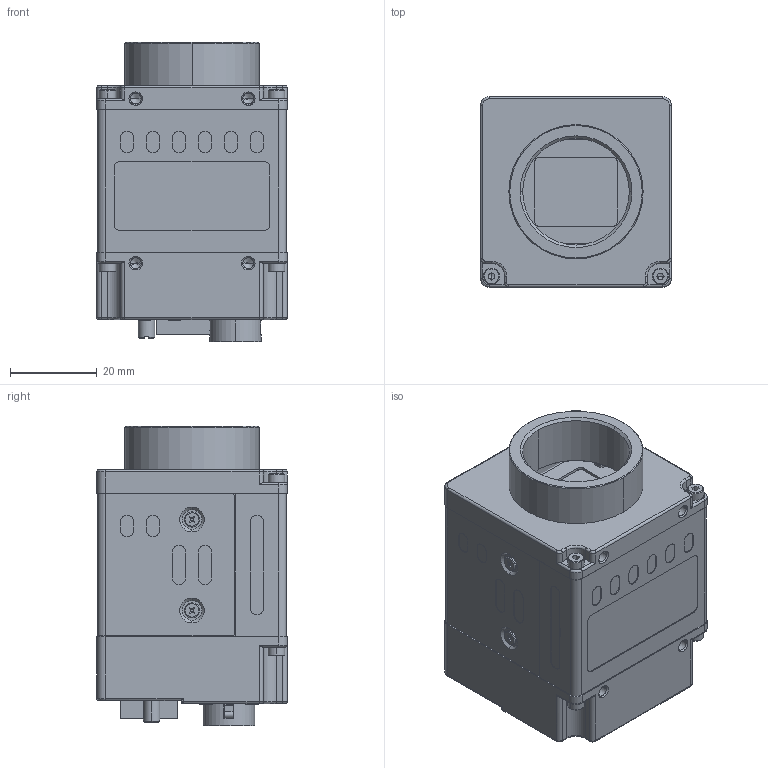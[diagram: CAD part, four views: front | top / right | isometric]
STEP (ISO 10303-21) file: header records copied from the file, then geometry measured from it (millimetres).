
FILE_DESCRIPTION((''),'2;1');
FILE_NAME('SP-12401M-PGE_MOCK_ASM','2018-05-16T',('aso'),(''),'CREO PARAMETRIC BY PTC INC, 2016260','CREO PARAMETRIC BY PTC INC, 2016260','');
FILE_SCHEMA(('CONFIG_CONTROL_DESIGN'));
Products named in the file (1): SP-12401M-PGE_MOCK_ASM
Bounding box: 44 x 44 x 69.1 mm (x, y, z)
Volume: 79763.7 mm3; surface area: 45523.1 mm2
Topology: 1 solids, 2 shells, 3535 faces, 10376 edges, 6866 vertices
Faces by surface type: plane 2368, cylinder 683, cone 213, extrusion 159, sphere 54, torus 53, bspline 5
Entity records: 118226 total; most frequent: CARTESIAN_POINT 24859, ORIENTED_EDGE 19568, DIRECTION 18441, EDGE_CURVE 10276, VECTOR 7505, LINE 7346, VERTEX_POINT 6865, AXIS2_PLACEMENT_3D 5468
